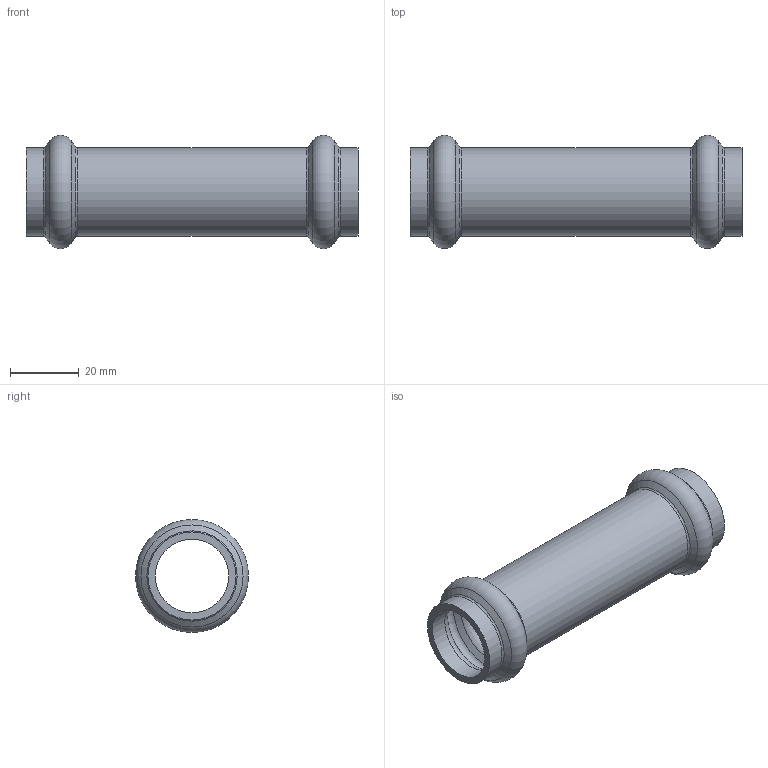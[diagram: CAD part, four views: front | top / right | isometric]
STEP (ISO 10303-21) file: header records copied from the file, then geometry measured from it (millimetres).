
FILE_DESCRIPTION(/* description */ ('VIC COUPLING STYLE P508 SLIP (P X P)','CAx-IF Rec.Pracs.---Representation and Presentation of Product Manufacturing Information (PMI)---4.0---2014-10-13'),/* implementation_level */ '2;1');
FILE_NAME(/* name */ 'C:\Users\kkamble\AppData\Roaming\Autodesk\ApplicationPlugins\Back Up\Victaulic_SS-Vic-Press-TP 316_Coupling Slip_Style P508 (VP)\Victaulic_SS-Vic-Press-TP 316_Coupling Slip_Style P508 (VP)_0.5 (15).stp',/* time_stamp */ '2020-08-14T11:54:19+05:00',/* author */ ('cgray'),/* organization */ ('Victaulic'),/* preprocessor_version */ 'ST-DEVELOPER v17.2',/* originating_system */ 'Autodesk Inventor 2019',/* authorisation */ '');
FILE_SCHEMA (('AP242_MANAGED_MODEL_BASED_3D_ENGINEERING_MIM_LF { 1 0 10303 442 1 1 4 }'));
Length unit declared in the file: inch
Products named in the file (1): P508-0.5
Bounding box: 96.27 x 32.79 x 32.79 mm (x, y, z)
Volume: 16536.2 mm3; surface area: 15998.1 mm2
Topology: 1 solids, 1 shells, 28 faces, 106 edges, 80 vertices
Faces by surface type: torus 12, cone 8, cylinder 6, plane 2
Full cylindrical faces by diameter (mm): 21.336 x3, 25.552 x3
Entity records: 1390 total; most frequent: DIRECTION 282, CARTESIAN_POINT 232, ORIENTED_EDGE 212, AXIS2_PLACEMENT_3D 134, EDGE_CURVE 106, CIRCLE 92, VERTEX_POINT 80, EDGE_LOOP 30
